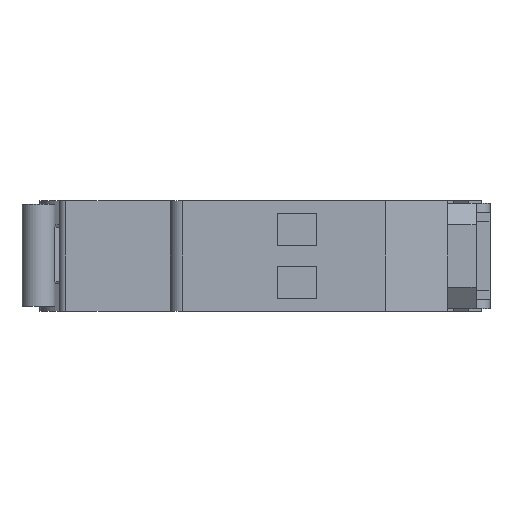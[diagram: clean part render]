
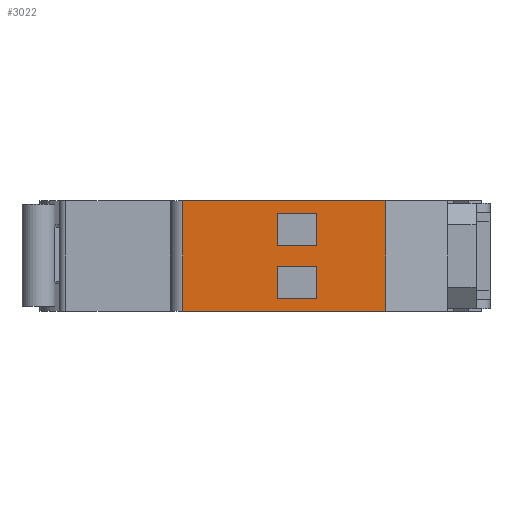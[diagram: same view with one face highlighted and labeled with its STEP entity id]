
A CAD part, front view. The second image highlights one B-rep face of the part: STEP entity #3022.
In plain terms, the highlighted planar face has unit normal (0, -1, 0).
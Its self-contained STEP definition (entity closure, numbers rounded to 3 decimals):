
#2 = VECTOR ( 'NONE', #7046, 1000. ) ;
#137 = CARTESIAN_POINT ( 'NONE',  ( 17.4, 0., 10.65 ) ) ;
#158 = VERTEX_POINT ( 'NONE', #3590 ) ;
#162 = EDGE_CURVE ( 'NONE', #3757, #5934, #4229, .T. ) ;
#244 = LINE ( 'NONE', #2092, #2 ) ;
#295 = VERTEX_POINT ( 'NONE', #7399 ) ;
#433 = AXIS2_PLACEMENT_3D ( 'NONE', #7444, #6153, #1112 ) ;
#491 = LINE ( 'NONE', #1731, #5739 ) ;
#498 = EDGE_CURVE ( 'NONE', #1998, #1274, #4780, .T. ) ;
#531 = LINE ( 'NONE', #3495, #4598 ) ;
#722 = ORIENTED_EDGE ( 'NONE', *, *, #2580, .T. ) ;
#723 = VECTOR ( 'NONE', #7182, 1000. ) ;
#1112 = DIRECTION ( 'NONE',  ( 1., 0., 0. ) ) ;
#1134 = CARTESIAN_POINT ( 'NONE',  ( 2., 0., 18. ) ) ;
#1259 = ORIENTED_EDGE ( 'NONE', *, *, #4143, .F. ) ;
#1274 = VERTEX_POINT ( 'NONE', #6454 ) ;
#1278 = DIRECTION ( 'NONE',  ( -1., 0., 0. ) ) ;
#1367 = CARTESIAN_POINT ( 'NONE',  ( 23.75, 0., 2.1 ) ) ;
#1436 = CARTESIAN_POINT ( 'NONE',  ( 17.4, 0., 7.35 ) ) ;
#1649 = EDGE_LOOP ( 'NONE', ( #1259, #7016, #3279, #3888 ) ) ;
#1684 = LINE ( 'NONE', #4156, #1977 ) ;
#1717 = VECTOR ( 'NONE', #7520, 1000. ) ;
#1731 = CARTESIAN_POINT ( 'NONE',  ( 17.4, 0., 7.35 ) ) ;
#1835 = VECTOR ( 'NONE', #7762, 1000. ) ;
#1977 = VECTOR ( 'NONE', #6638, 1000. ) ;
#1998 = VERTEX_POINT ( 'NONE', #6954 ) ;
#2092 = CARTESIAN_POINT ( 'NONE',  ( 35., 0., 0. ) ) ;
#2093 = CARTESIAN_POINT ( 'NONE',  ( 17.4, 0., 2.1 ) ) ;
#2159 = EDGE_CURVE ( 'NONE', #5934, #5022, #531, .T. ) ;
#2267 = ORIENTED_EDGE ( 'NONE', *, *, #5433, .F. ) ;
#2404 = CARTESIAN_POINT ( 'NONE',  ( 17.4, 0., 7.35 ) ) ;
#2419 = LINE ( 'NONE', #5461, #6629 ) ;
#2489 = PLANE ( 'NONE',  #433 ) ;
#2493 = CARTESIAN_POINT ( 'NONE',  ( 23.75, 0., 10.65 ) ) ;
#2514 = EDGE_CURVE ( 'NONE', #2698, #158, #7784, .T. ) ;
#2580 = EDGE_CURVE ( 'NONE', #3466, #1998, #2419, .T. ) ;
#2698 = VERTEX_POINT ( 'NONE', #1367 ) ;
#2713 = CARTESIAN_POINT ( 'NONE',  ( 17.4, 0., 2.1 ) ) ;
#3017 = LINE ( 'NONE', #3587, #7566 ) ;
#3022 = ADVANCED_FACE ( 'NONE', ( #6835, #6754, #4197 ), #2489, .T. ) ;
#3164 = CARTESIAN_POINT ( 'NONE',  ( 23.75, 0., 15.9 ) ) ;
#3279 = ORIENTED_EDGE ( 'NONE', *, *, #162, .F. ) ;
#3466 = VERTEX_POINT ( 'NONE', #6832 ) ;
#3495 = CARTESIAN_POINT ( 'NONE',  ( 17.4, 0., 15.9 ) ) ;
#3564 = EDGE_CURVE ( 'NONE', #158, #4053, #491, .T. ) ;
#3587 = CARTESIAN_POINT ( 'NONE',  ( 17.4, 0., 15.9 ) ) ;
#3590 = CARTESIAN_POINT ( 'NONE',  ( 23.75, 0., 7.35 ) ) ;
#3757 = VERTEX_POINT ( 'NONE', #2493 ) ;
#3799 = EDGE_CURVE ( 'NONE', #6211, #2698, #3916, .T. ) ;
#3888 = ORIENTED_EDGE ( 'NONE', *, *, #4207, .F. ) ;
#3905 = CARTESIAN_POINT ( 'NONE',  ( 17.4, 0., 10.65 ) ) ;
#3916 = LINE ( 'NONE', #2093, #7932 ) ;
#4053 = VERTEX_POINT ( 'NONE', #2404 ) ;
#4125 = ORIENTED_EDGE ( 'NONE', *, *, #7696, .F. ) ;
#4143 = EDGE_CURVE ( 'NONE', #5022, #7125, #3017, .T. ) ;
#4156 = CARTESIAN_POINT ( 'NONE',  ( 35., 0., 18. ) ) ;
#4197 = FACE_OUTER_BOUND ( 'NONE', #7355, .T. ) ;
#4207 = EDGE_CURVE ( 'NONE', #7125, #3757, #4388, .T. ) ;
#4229 = LINE ( 'NONE', #7283, #6378 ) ;
#4388 = LINE ( 'NONE', #3905, #1717 ) ;
#4598 = VECTOR ( 'NONE', #7146, 1000. ) ;
#4630 = LINE ( 'NONE', #1436, #6403 ) ;
#4695 = CARTESIAN_POINT ( 'NONE',  ( 23.75, 0., 7.35 ) ) ;
#4768 = ORIENTED_EDGE ( 'NONE', *, *, #3564, .F. ) ;
#4780 = LINE ( 'NONE', #1134, #1835 ) ;
#5022 = VERTEX_POINT ( 'NONE', #6969 ) ;
#5433 = EDGE_CURVE ( 'NONE', #3466, #295, #1684, .T. ) ;
#5461 = CARTESIAN_POINT ( 'NONE',  ( 35., 0., 18. ) ) ;
#5696 = EDGE_CURVE ( 'NONE', #4053, #6211, #4630, .T. ) ;
#5739 = VECTOR ( 'NONE', #6000, 1000. ) ;
#5934 = VERTEX_POINT ( 'NONE', #3164 ) ;
#6000 = DIRECTION ( 'NONE',  ( -1., 0., 0. ) ) ;
#6043 = ORIENTED_EDGE ( 'NONE', *, *, #3799, .F. ) ;
#6065 = DIRECTION ( 'NONE',  ( 0., 0., -1. ) ) ;
#6105 = DIRECTION ( 'NONE',  ( 0., 0., 1. ) ) ;
#6115 = ORIENTED_EDGE ( 'NONE', *, *, #5696, .F. ) ;
#6153 = DIRECTION ( 'NONE',  ( 0., -1., 0. ) ) ;
#6211 = VERTEX_POINT ( 'NONE', #2713 ) ;
#6378 = VECTOR ( 'NONE', #6105, 1000. ) ;
#6403 = VECTOR ( 'NONE', #7113, 1000. ) ;
#6454 = CARTESIAN_POINT ( 'NONE',  ( 2., 0., 0. ) ) ;
#6575 = EDGE_LOOP ( 'NONE', ( #6115, #4768, #7644, #6043 ) ) ;
#6629 = VECTOR ( 'NONE', #1278, 1000. ) ;
#6638 = DIRECTION ( 'NONE',  ( 0., 0., -1. ) ) ;
#6754 = FACE_BOUND ( 'NONE', #6575, .T. ) ;
#6832 = CARTESIAN_POINT ( 'NONE',  ( 35., 0., 18. ) ) ;
#6835 = FACE_BOUND ( 'NONE', #1649, .T. ) ;
#6954 = CARTESIAN_POINT ( 'NONE',  ( 2., 0., 18. ) ) ;
#6969 = CARTESIAN_POINT ( 'NONE',  ( 17.4, 0., 15.9 ) ) ;
#7016 = ORIENTED_EDGE ( 'NONE', *, *, #2159, .F. ) ;
#7046 = DIRECTION ( 'NONE',  ( -1., 0., 0. ) ) ;
#7097 = ORIENTED_EDGE ( 'NONE', *, *, #498, .T. ) ;
#7113 = DIRECTION ( 'NONE',  ( 0., 0., -1. ) ) ;
#7125 = VERTEX_POINT ( 'NONE', #137 ) ;
#7146 = DIRECTION ( 'NONE',  ( -1., 0., 0. ) ) ;
#7182 = DIRECTION ( 'NONE',  ( 0., 0., 1. ) ) ;
#7283 = CARTESIAN_POINT ( 'NONE',  ( 23.75, 0., 15.9 ) ) ;
#7355 = EDGE_LOOP ( 'NONE', ( #722, #7097, #4125, #2267 ) ) ;
#7399 = CARTESIAN_POINT ( 'NONE',  ( 35., 0., 0. ) ) ;
#7444 = CARTESIAN_POINT ( 'NONE',  ( 35., 0., 18. ) ) ;
#7520 = DIRECTION ( 'NONE',  ( 1., 0., 0. ) ) ;
#7535 = DIRECTION ( 'NONE',  ( 1., 0., 0. ) ) ;
#7566 = VECTOR ( 'NONE', #6065, 1000. ) ;
#7644 = ORIENTED_EDGE ( 'NONE', *, *, #2514, .F. ) ;
#7696 = EDGE_CURVE ( 'NONE', #295, #1274, #244, .T. ) ;
#7762 = DIRECTION ( 'NONE',  ( 0., 0., -1. ) ) ;
#7784 = LINE ( 'NONE', #4695, #723 ) ;
#7932 = VECTOR ( 'NONE', #7535, 1000. ) ;
